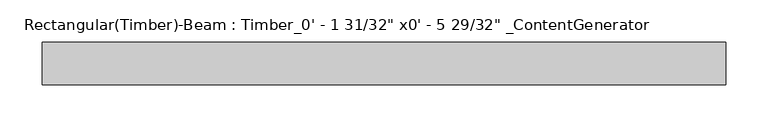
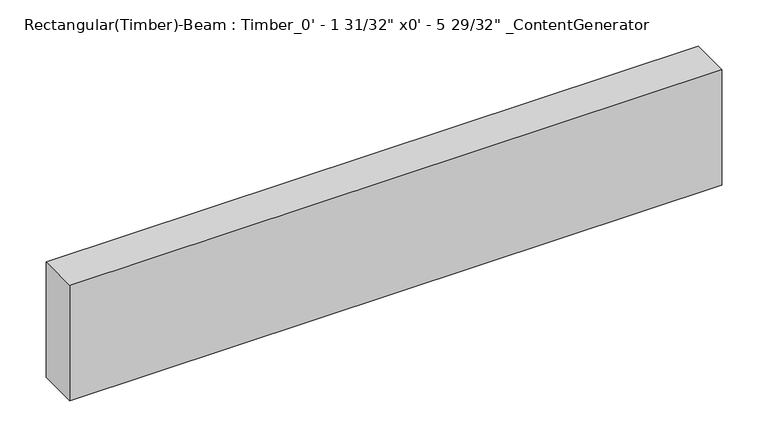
"""IFC4 building model written with IfcOpenShell, lengths in millimetres: beam geometry."""

from ifc_helpers import new_model, si_unit, frame, origin, place, context, project, spatial, polyline, outline, extrude, source, transform, mapped, element, save


def beam_b7962ac8(model_context):
    return source(origin(), model_context, "Body", "SweptSolid", [
        extrude(outline(polyline([(406.4, 25.4), (406.4, -25.4), (-406.4, -25.4), (-406.4, 25.4), (406.4, 25.4)])), frame((0.0, 0.0, -76.2), z_axis=(0.0, 0.0, 1.0), x_axis=(1.0, 0.0, 0.0)), (0.0, 0.0, 1.0), 152.4),
    ])


if __name__ == "__main__":
    model = new_model("IFC4")
    model_context = context("Model", 3, world=origin())
    ifc_project = project(units=[si_unit("LENGTHUNIT", "METRE", prefix="MILLI")], contexts=[model_context])
    site = spatial("IfcSite", under=ifc_project)
    building = spatial("IfcBuilding", under=site)
    placement = place(None, origin())
    beam_shape = beam_b7962ac8(model_context)
    element("IfcBeam", 1, ObjectType="Rectangular(Timber)-Beam : Timber_0' - 1 31/32\" x0' - 5 29/32\" _ContentGenerator", at=placement, inside=building, context=model_context, shape_type="MappedRepresentation", body=[
        mapped(beam_shape, transform((0.0, 0.0, 0.0), x_axis=(1.0, 0.0, 0.0), y_axis=(0.0, 1.0, 0.0), z_axis=(0.0, 0.0, 1.0))),
    ])
    save(model, "model.ifc")
